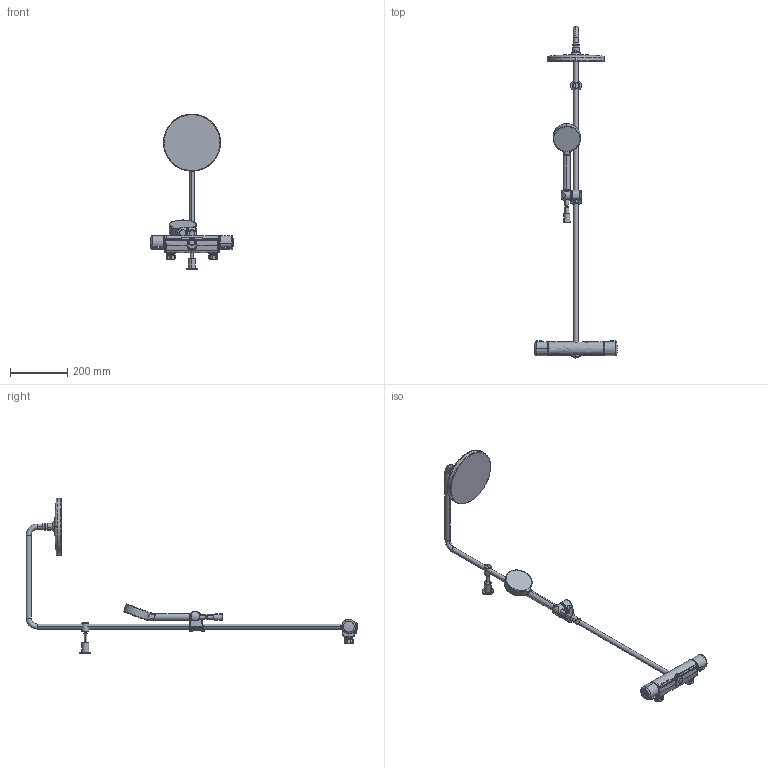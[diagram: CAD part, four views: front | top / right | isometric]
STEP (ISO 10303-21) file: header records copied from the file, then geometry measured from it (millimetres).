
FILE_DESCRIPTION (( 'STEP AP203' ), '1' );
FILE_NAME ('7402C(2022).STEP', '2022-09-05T10:22:08', ( '' ), ( '' ), 'SwSTEP 2.0', 'SolidWorks 2016', '' );
FILE_SCHEMA (( 'CONFIG_CONTROL_DESIGN' ));
Length unit declared in the file: millimetre
Products named in the file (1): 7402C(2022)
Bounding box: 289.61 x 1162.4 x 545.7 mm (x, y, z)
Volume: 1814623.5 mm3; surface area: 356115.2 mm2
Topology: 23 solids, 23 shells, 840 faces, 1972 edges, 1181 vertices
Faces by surface type: bspline 326, cylinder 202, plane 119, torus 92, cone 71, sphere 30
Entity records: 61143 total; most frequent: CARTESIAN_POINT 44773, ORIENTED_EDGE 3912, DIRECTION 2705, EDGE_CURVE 1956, AXIS2_PLACEMENT_3D 1193, VERTEX_POINT 1181, EDGE_LOOP 861, FACE_OUTER_BOUND 840
